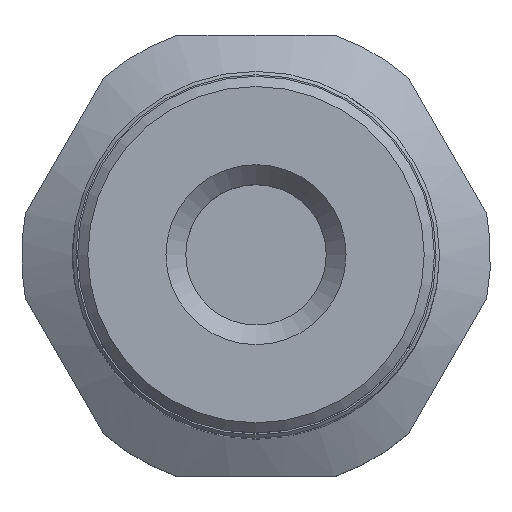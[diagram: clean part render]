
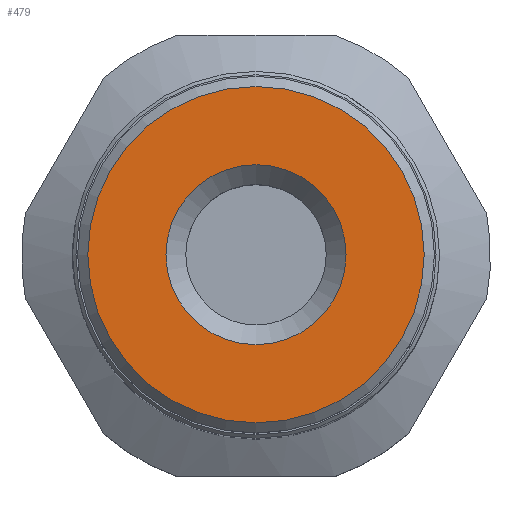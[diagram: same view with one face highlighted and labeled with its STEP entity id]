
A CAD part, top view. The second image highlights one B-rep face of the part: STEP entity #479.
In plain terms, the highlighted planar face has unit normal (0, 0, 1).
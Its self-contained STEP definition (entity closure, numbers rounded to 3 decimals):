
#63=PLANE('',#540);
#92=FACE_BOUND('',#172,.T.);
#93=FACE_BOUND('',#173,.T.);
#172=EDGE_LOOP('',(#423));
#173=EDGE_LOOP('',(#424));
#217=CIRCLE('',#535,2.65);
#220=CIRCLE('',#541,4.95);
#260=VERTEX_POINT('',#830);
#263=VERTEX_POINT('',#839);
#318=EDGE_CURVE('',#260,#260,#217,.T.);
#321=EDGE_CURVE('',#263,#263,#220,.T.);
#423=ORIENTED_EDGE('',*,*,#318,.T.);
#424=ORIENTED_EDGE('',*,*,#321,.F.);
#479=ADVANCED_FACE('',(#92,#93),#63,.T.);
#535=AXIS2_PLACEMENT_3D('',#831,#656,#657);
#540=AXIS2_PLACEMENT_3D('',#838,#666,#667);
#541=AXIS2_PLACEMENT_3D('',#840,#668,#669);
#656=DIRECTION('center_axis',(0.,0.,-1.));
#657=DIRECTION('ref_axis',(1.,0.,0.));
#666=DIRECTION('center_axis',(0.,0.,1.));
#667=DIRECTION('ref_axis',(1.,0.,0.));
#668=DIRECTION('center_axis',(0.,0.,-1.));
#669=DIRECTION('ref_axis',(1.,0.,0.));
#830=CARTESIAN_POINT('',(2.65,0.,11.1));
#831=CARTESIAN_POINT('Origin',(0.,0.,11.1));
#838=CARTESIAN_POINT('Origin',(0.,4.95,11.1));
#839=CARTESIAN_POINT('',(0.,4.95,11.1));
#840=CARTESIAN_POINT('Origin',(0.,0.,11.1));
